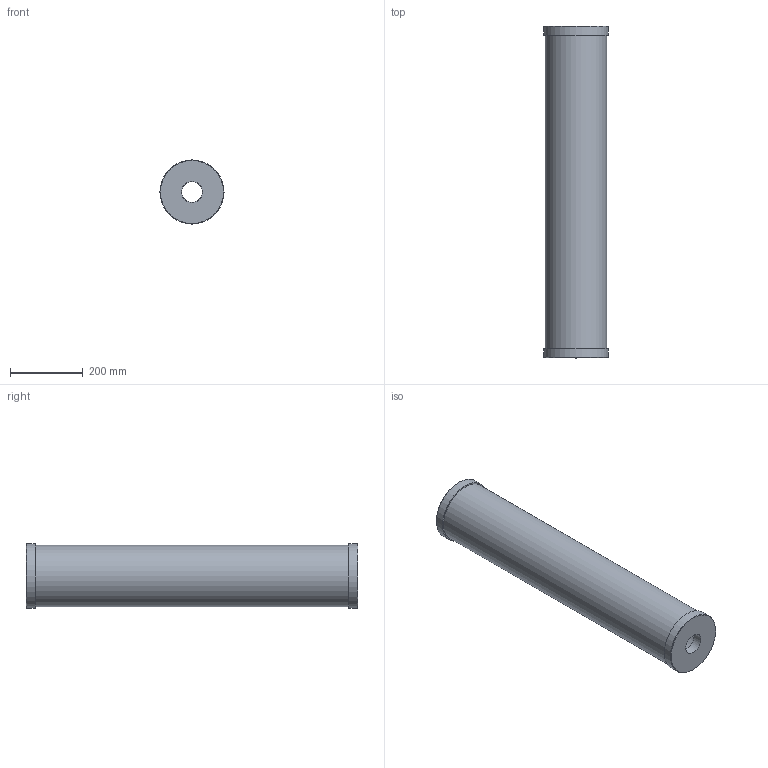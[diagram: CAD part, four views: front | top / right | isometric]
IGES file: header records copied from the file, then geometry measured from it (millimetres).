
Start section: SolidWorks IGES file using analytic representation for surfaces
Global section: file name: F:\Griffco-Valve\Griffco_current-projects\GV_web-files_2015\CAL cylinders\CC15000_P_BSPT.IGS; native system: SolidWorks 2014; preprocessor: SolidWorks 2014; author: Dan; date: 160321.043153; units: inch
Bounding box: 176.53 x 914.4 x 176.53 mm (x, y, z)
Surface area: 976652.5 mm2 (no closed solid volume)
Topology: 0 solids, 0 shells, 14 faces, 37 edges, 29 vertices
Faces by surface type: revolution 8, bspline 6
